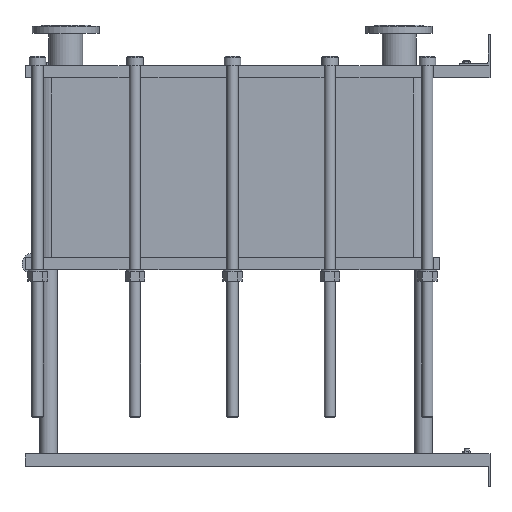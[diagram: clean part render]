
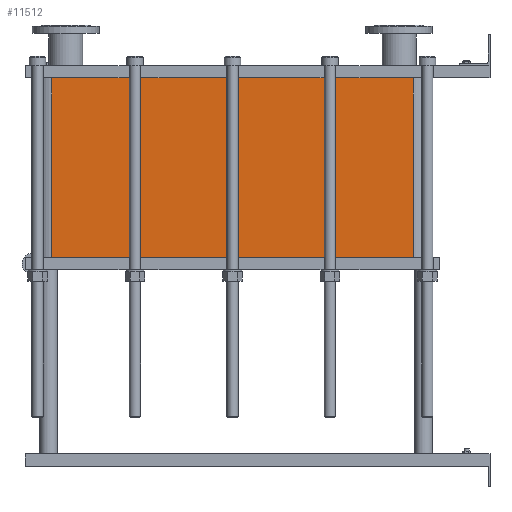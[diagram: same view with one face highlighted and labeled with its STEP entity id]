
A CAD part, left-side view. The second image highlights one B-rep face of the part: STEP entity #11512.
In plain terms, the highlighted planar face has unit normal (-1, 0, 0).
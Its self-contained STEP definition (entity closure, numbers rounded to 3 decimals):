
#1129=LINE('',#23232,#2102);
#1130=LINE('',#23236,#2103);
#1131=LINE('',#23238,#2104);
#1132=LINE('',#23239,#2105);
#2102=VECTOR('',#15887,10.);
#2103=VECTOR('',#15892,10.);
#2104=VECTOR('',#15893,10.);
#2105=VECTOR('',#15894,10.);
#3267=FACE_OUTER_BOUND('',#4093,.T.);
#4093=EDGE_LOOP('',(#10103,#10104,#10105,#10106));
#5642=VERTEX_POINT('',#23229);
#5643=VERTEX_POINT('',#23231);
#5644=VERTEX_POINT('',#23235);
#5645=VERTEX_POINT('',#23237);
#7159=EDGE_CURVE('',#5643,#5642,#1129,.T.);
#7161=EDGE_CURVE('',#5642,#5644,#1130,.T.);
#7162=EDGE_CURVE('',#5645,#5644,#1131,.T.);
#7163=EDGE_CURVE('',#5645,#5643,#1132,.T.);
#10103=ORIENTED_EDGE('',*,*,#7161,.T.);
#10104=ORIENTED_EDGE('',*,*,#7162,.F.);
#10105=ORIENTED_EDGE('',*,*,#7163,.T.);
#10106=ORIENTED_EDGE('',*,*,#7159,.T.);
#10857=PLANE('',#12751);
#11512=ADVANCED_FACE('',(#3267),#10857,.T.);
#12751=AXIS2_PLACEMENT_3D('',#23234,#15890,#15891);
#15887=DIRECTION('',(0.,0.,-1.));
#15890=DIRECTION('center_axis',(-1.,0.,0.));
#15891=DIRECTION('ref_axis',(0.,1.,0.));
#15892=DIRECTION('',(0.,-1.,0.));
#15893=DIRECTION('',(0.,0.,-1.));
#15894=DIRECTION('',(0.,1.,0.));
#23229=CARTESIAN_POINT('',(-200.,1414.,-579.6));
#23231=CARTESIAN_POINT('',(-200.,1414.,0.));
#23232=CARTESIAN_POINT('',(-200.,1414.,0.));
#23234=CARTESIAN_POINT('Origin',(-200.,248.,0.));
#23235=CARTESIAN_POINT('',(-200.,248.,-579.6));
#23236=CARTESIAN_POINT('',(-200.,539.5,-579.6));
#23237=CARTESIAN_POINT('',(-200.,248.,0.));
#23238=CARTESIAN_POINT('',(-200.,248.,0.));
#23239=CARTESIAN_POINT('',(-200.,248.,0.));
